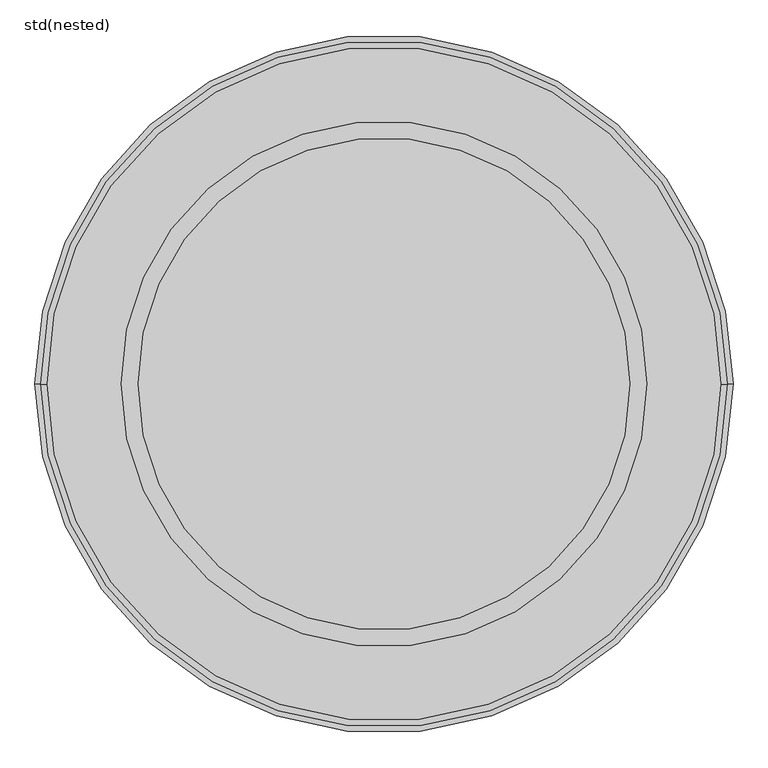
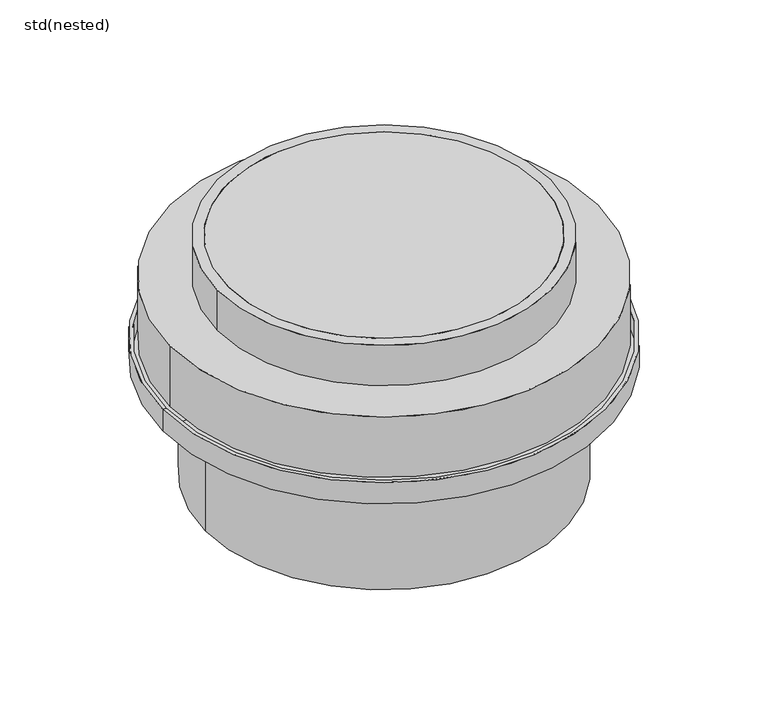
"""IFC4 building model written with IfcOpenShell, lengths in millimetres: unitary equipment geometry, ZZZ_do not use_ME_ST_WPB_top sections_plastic_ACO : std(nested)."""

import ifcopenshell
import ifcopenshell.guid

model = None  # the IFC model being written
_history = None  # IfcOwnerHistory: only IFC2X3 demands one
_inside = {}  # id of a spatial element -> (the spatial element, [elements in it])
_under = {}  # id of a project, library or spatial element -> (it, [spatial elements below it])
_declared = {}  # id of a project -> (the project, [libraries it declares])
_typed = {}  # id of a type object -> (the type object, [elements of that type])
_made_of = {}  # id of a material, layer set ... -> (it, [elements and type objects made of it])


def new_model(schema):
    """Start an empty IFC model of exactly this schema.

    Asked for "IFC4X3", IfcOpenShell would pick the latest addendum, in which some entities
    have other attributes; the version numbers below select the first issue.
    IFC2X3 requires an IfcOwnerHistory on every rooted entity: one is made here for all.
    """
    global model, _history
    if schema == "IFC4X3":
        model = ifcopenshell.file(schema_version=(4, 3, 0, 0))
    else:
        model = ifcopenshell.file(schema=schema)
    _inside.clear()
    _under.clear()
    _declared.clear()
    _typed.clear()
    _made_of.clear()
    _history = None
    if model.schema == "IFC2X3":
        org = make("IfcOrganization", Name="unknown")
        user = make(
            "IfcPersonAndOrganization",
            ThePerson=make("IfcPerson", FamilyName="unknown"),
            TheOrganization=org,
        )
        app = make(
            "IfcApplication",
            ApplicationDeveloper=org,
            Version="unknown",
            ApplicationFullName="unknown",
            ApplicationIdentifier="unknown",
        )
        _history = make(
            "IfcOwnerHistory",
            OwningUser=user,
            OwningApplication=app,
            ChangeAction="ADDED",
            CreationDate=0,
        )
    return model


def make(cls, **values):
    """One entity of the class cls with the attributes given. An attribute that is None is left unset."""
    return model.create_entity(
        cls, **{name: value for name, value in values.items() if value is not None}
    )


def rooted(cls, **values):
    """An entity with a GlobalId (a new one), such as an element, a storey or a relation."""
    return make(cls, GlobalId=ifcopenshell.guid.new(), OwnerHistory=_history, **values)


def si_unit(unit_type, name, prefix=None):
    """IfcSIUnit, for example si_unit("LENGTHUNIT", "METRE", prefix="MILLI")."""
    return make("IfcSIUnit", UnitType=unit_type, Prefix=prefix, Name=name)


def assignment(units):
    """IfcUnitAssignment: the units of a project."""
    return None if units is None else make("IfcUnitAssignment", Units=units)


def point(xyz):
    """IfcCartesianPoint."""
    return None if xyz is None else make("IfcCartesianPoint", Coordinates=xyz)


def direction(xyz):
    """IfcDirection."""
    return None if xyz is None else make("IfcDirection", DirectionRatios=xyz)


def frame(location, z_axis=None, x_axis=None):
    """IfcAxis2Placement3D, a coordinate frame: its origin and axes. An axis left out is left unset."""
    return make(
        "IfcAxis2Placement3D",
        Location=point(location),
        Axis=direction(z_axis),
        RefDirection=direction(x_axis),
    )


def frame_2d(location, x_axis=None):
    """IfcAxis2Placement2D, a coordinate frame in the plane: its origin and x axis."""
    return make(
        "IfcAxis2Placement2D", Location=point(location), RefDirection=direction(x_axis)
    )


def origin():
    """The frame at (0, 0, 0) with its axes left unset."""
    return frame((0.0, 0.0, 0.0))


def origin_2d():
    """The frame at (0, 0) in the plane with its x axis left unset."""
    return frame_2d((0.0, 0.0))


def place(relative_to, where):
    """IfcLocalPlacement: puts the frame where relative to a parent placement (None: the world)."""
    return make(
        "IfcLocalPlacement", PlacementRelTo=relative_to, RelativePlacement=where
    )


def context(
    kind, dimensions, precision=None, world=None, true_north=None, identifier=None
):
    """IfcGeometricRepresentationContext, for example the 3D "Model" context."""
    return make(
        "IfcGeometricRepresentationContext",
        ContextIdentifier=identifier,
        ContextType=kind,
        CoordinateSpaceDimension=dimensions,
        Precision=precision,
        WorldCoordinateSystem=world,
        TrueNorth=true_north,
    )


def project(units=None, contexts=None):
    """IfcProject with its units and contexts."""
    return rooted(
        "IfcProject",
        Name="project",
        RepresentationContexts=contexts,
        UnitsInContext=assignment(units),
    )


def spatial(cls, under=None, at=None, **own):
    """A site, building, storey or space (cls), placed at a placement, below another one or the project."""
    s = rooted(cls, ObjectPlacement=at, **own)
    if under is not None:
        _under.setdefault(under.id(), (under, []))[1].append(s)
    return s


def polyline(points):
    """IfcPolyline through the points."""
    return make("IfcPolyline", Points=[point(p) for p in points])


def circle_curve(where, radius):
    """IfcCircle in the frame where."""
    return make("IfcCircle", Position=where, Radius=radius)


def trimmed(basis, trim1, trim2, sense, master):
    """IfcTrimmedCurve: the piece of a basis curve between two trims."""
    return make(
        "IfcTrimmedCurve",
        BasisCurve=basis,
        Trim1=trim1,
        Trim2=trim2,
        SenseAgreement=sense,
        MasterRepresentation=master,
    )


def segment(curve, same_sense, transition):
    """IfcCompositeCurveSegment."""
    return make(
        "IfcCompositeCurveSegment",
        Transition=transition,
        SameSense=same_sense,
        ParentCurve=curve,
    )


def composite_curve(segments, self_intersect=None):
    """IfcCompositeCurve: segments joined end to end."""
    return make("IfcCompositeCurve", Segments=segments, SelfIntersect=self_intersect)


def outline(outer, holes=None, kind="AREA"):
    """IfcArbitraryClosedProfileDef: a profile drawn as a closed curve; with holes, ...WithVoids."""
    if holes is None:
        return make("IfcArbitraryClosedProfileDef", ProfileType=kind, OuterCurve=outer)
    return make(
        "IfcArbitraryProfileDefWithVoids",
        ProfileType=kind,
        OuterCurve=outer,
        InnerCurves=holes,
    )


def extrude(swept, where, along, depth):
    """IfcExtrudedAreaSolid: the profile swept, set in the frame where, extruded along a direction by depth."""
    return make(
        "IfcExtrudedAreaSolid",
        SweptArea=swept,
        Position=where,
        ExtrudedDirection=direction(along),
        Depth=depth,
    )


def shape(context_of_items, identifier, shape_type, items):
    """IfcShapeRepresentation: the items that make up one representation, for example the "Body"."""
    return make(
        "IfcShapeRepresentation",
        ContextOfItems=context_of_items,
        RepresentationIdentifier=identifier,
        RepresentationType=shape_type,
        Items=items,
    )


def source(mapping_origin, context_of_items, identifier, shape_type, items):
    """IfcRepresentationMap: a shape defined once, which mapped items show again and again."""
    return make(
        "IfcRepresentationMap",
        MappingOrigin=mapping_origin,
        MappedRepresentation=shape(context_of_items, identifier, shape_type, items),
    )


def transform(
    local_origin,
    x_axis=None,
    y_axis=None,
    z_axis=None,
    scale=None,
    scale2=None,
    scale3=None,
    uniform=True,
):
    """IfcCartesianTransformationOperator3D, or its non-uniform kind. x_axis, y_axis, z_axis: its Axis1, 2, 3."""
    if uniform:
        return make(
            "IfcCartesianTransformationOperator3D",
            Axis1=direction(x_axis),
            Axis2=direction(y_axis),
            LocalOrigin=point(local_origin),
            Scale=scale,
            Axis3=direction(z_axis),
        )
    return make(
        "IfcCartesianTransformationOperator3DnonUniform",
        Axis1=direction(x_axis),
        Axis2=direction(y_axis),
        LocalOrigin=point(local_origin),
        Scale=scale,
        Axis3=direction(z_axis),
        Scale2=scale2,
        Scale3=scale3,
    )


def mapped(mapping_source, mapping_target):
    """IfcMappedItem: shows the shape of a source again, moved by a transform."""
    return make(
        "IfcMappedItem", MappingSource=mapping_source, MappingTarget=mapping_target
    )


def made_of(thing, what):
    """Note that an element or type object is made of a material, layer set ...; save() writes the relation."""
    if what is not None:
        _made_of.setdefault(what.id(), (what, []))[1].append(thing)
    return thing


def element(
    cls,
    number,
    at=None,
    inside=None,
    cuts=None,
    type_object=None,
    material=None,
    context=None,
    identifier="Body",
    shape_type=None,
    held_by="IfcProductDefinitionShape",
    body=None,
    shapes=None,
    **own,
):
    """One element of the class cls, such as IfcWall. Its Tag is "e" and its number.

    at: its placement. inside: the storey or other place that contains it. cuts: it is an
    opening in that element (IfcRelVoidsElement). A single representation is given by context,
    identifier, shape_type and body (its items); several are given by shapes. held_by: the class
    of the entity that holds the representations. save() writes the other relations.
    """
    e = rooted(cls, Tag="e%d" % number, ObjectPlacement=at, **own)
    if body is not None:
        shapes = [shape(context, identifier, shape_type, body)]
    if shapes is not None:
        e.Representation = make(held_by, Representations=shapes)
    if inside is not None:
        _inside.setdefault(inside.id(), (inside, []))[1].append(e)
    if cuts is not None:
        rooted(
            "IfcRelVoidsElement", RelatingBuildingElement=cuts, RelatedOpeningElement=e
        )
    if type_object is not None:
        _typed.setdefault(type_object.id(), (type_object, []))[1].append(e)
    return made_of(e, material)


def aggregate(whole, parts):
    """IfcRelAggregates: a whole, such as a stair, and the parts it consists of."""
    return rooted("IfcRelAggregates", RelatingObject=whole, RelatedObjects=parts)


def save(model, path):
    """Write the relations noted so far, then the file.

    IfcRelAggregates (storeys below a building ...), IfcRelContainedInSpatialStructure (elements
    in a storey), IfcRelDefinesByType, IfcRelAssociatesMaterial and IfcRelDeclares: one each for
    every whole, place, type object, material and project.
    """
    for whole, parts in _under.values():
        aggregate(whole, parts)
    for where, things in _inside.values():
        rooted(
            "IfcRelContainedInSpatialStructure",
            RelatedElements=things,
            RelatingStructure=where,
        )
    for kind, things in _typed.values():
        rooted("IfcRelDefinesByType", RelatedObjects=things, RelatingType=kind)
    for what, things in _made_of.values():
        rooted("IfcRelAssociatesMaterial", RelatedObjects=things, RelatingMaterial=what)
    for by, libraries in _declared.values():
        rooted("IfcRelDeclares", RelatingContext=by, RelatedDefinitions=libraries)
    model.write(path)


def plane_surface(at):
    """IfcPlane: the flat surface through the origin of the frame at, square to its z axis."""
    return make("IfcPlane", Position=at)


def cylinder_surface(at, radius):
    """IfcCylindricalSurface: all points at the distance radius from the z axis of the frame at."""
    return make("IfcCylindricalSurface", Position=at, Radius=radius)


def revolved_surface(curve, axis_point, axis_direction):
    """IfcSurfaceOfRevolution: the curve turned about the line through axis_point along axis_direction."""
    return make(
        "IfcSurfaceOfRevolution",
        SweptCurve=make("IfcArbitraryOpenProfileDef", ProfileType="CURVE", Curve=curve),
        AxisPosition=make("IfcAxis1Placement", Location=point(axis_point), Axis=direction(axis_direction)),
    )


def advanced_brep(points, edges, surfaces, faces):
    """IfcAdvancedBrep: a solid bounded by faces that lie on surfaces and meet in shared edges.

    An edge is (start, end): straight between two places in points (the first is 0);
    or (start, end, curve); or (start, end, curve, False) where it runs against its curve.
    A face is (place in surfaces, loops), or (place, loops, False) where it looks against
    its surface's normal. A loop lists edges by number (the first is 1), with a minus sign
    where the edge is run from its end to its start. The first loop is the outer one.
    """
    corners = [point(p) for p in points]
    vertices = [make("IfcVertexPoint", VertexGeometry=c) for c in corners]
    made = []
    for start, end, *more in edges:
        made.append(
            make(
                "IfcEdgeCurve",
                EdgeStart=vertices[start],
                EdgeEnd=vertices[end],
                EdgeGeometry=more[0] if more else make("IfcPolyline", Points=[corners[start], corners[end]]),
                SameSense=more[1] if len(more) > 1 else True,
            )
        )
    hull = []
    for where, loops, *sense in faces:
        bounds = []
        for j, loop in enumerate(loops):
            ring = [make("IfcOrientedEdge", EdgeElement=made[abs(k) - 1], Orientation=k > 0) for k in loop]
            bounds.append(
                make(
                    "IfcFaceOuterBound" if j == 0 else "IfcFaceBound",
                    Bound=make("IfcEdgeLoop", EdgeList=ring),
                    Orientation=True,
                )
            )
        hull.append(make("IfcAdvancedFace", Bounds=bounds, FaceSurface=surfaces[where], SameSense=sense[0] if sense else True))
    return make("IfcAdvancedBrep", Outer=make("IfcClosedShell", CfsFaces=hull))


def std_nested_81b6cdd4(model_context):
    return source(origin(), model_context, "Body", "SolidModel", [
        advanced_brep(
        [(-510.0, 0.0, -250.0), (510.0, 0.0, -250.0), (518.0, 0.0, -250.0), (-518.0, 0.0, -250.0), (-510.0, 0.0, -295.0), (510.0, 0.0, -295.0), (-410.0, 0.0, -295.0), (410.0, 0.0, -295.0), (-410.0, 0.0, -585.0), (410.0, 0.0, -585.0), (-418.0, 0.0, -585.0), (418.0, 0.0, -585.0), (-418.0, 0.0, -303.0), (418.0, 0.0, -303.0), (-518.0, 0.0, -303.0), (518.0, 0.0, -303.0)],
        [
            (0, 1, circle_curve(frame((0.0, 0.0, -250.0), z_axis=(0.0, 0.0, -1.0), x_axis=(1.0, 0.0, 0.0)), 510.0)),
            (1, 2),
            (2, 3, circle_curve(frame((0.0, 0.0, -250.0), z_axis=(0.0, 0.0, 1.0), x_axis=(1.0, 0.0, 0.0)), 518.0)),
            (3, 0),
            (1, 0, circle_curve(frame((0.0, 0.0, -250.0), z_axis=(0.0, 0.0, -1.0), x_axis=(1.0, 0.0, 0.0)), 510.0)),
            (3, 2, circle_curve(frame((0.0, 0.0, -250.0), z_axis=(0.0, 0.0, 1.0), x_axis=(1.0, 0.0, 0.0)), 518.0)),
            (4, 5, circle_curve(frame((0.0, 0.0, -295.0), z_axis=(0.0, 0.0, -1.0), x_axis=(1.0, 0.0, 0.0)), 510.0)),
            (5, 1),
            (0, 4),
            (5, 4, circle_curve(frame((0.0, 0.0, -295.0), z_axis=(0.0, 0.0, -1.0), x_axis=(1.0, 0.0, 0.0)), 510.0)),
            (6, 7, circle_curve(frame((0.0, 0.0, -295.0), z_axis=(0.0, 0.0, -1.0), x_axis=(1.0, 0.0, 0.0)), 410.0)),
            (7, 5),
            (4, 6),
            (7, 6, circle_curve(frame((0.0, 0.0, -295.0), z_axis=(0.0, 0.0, -1.0), x_axis=(1.0, 0.0, 0.0)), 410.0)),
            (8, 9, circle_curve(frame((0.0, 0.0, -585.0), z_axis=(0.0, 0.0, -1.0), x_axis=(1.0, 0.0, 0.0)), 410.0)),
            (9, 7),
            (6, 8),
            (9, 8, circle_curve(frame((0.0, 0.0, -585.0), z_axis=(0.0, 0.0, -1.0), x_axis=(1.0, 0.0, 0.0)), 410.0)),
            (10, 11, circle_curve(frame((0.0, 0.0, -585.0), z_axis=(0.0, 0.0, -1.0), x_axis=(1.0, 0.0, 0.0)), 418.0)),
            (11, 9),
            (8, 10),
            (11, 10, circle_curve(frame((0.0, 0.0, -585.0), z_axis=(0.0, 0.0, -1.0), x_axis=(1.0, 0.0, 0.0)), 418.0)),
            (12, 13, circle_curve(frame((0.0, 0.0, -303.0), z_axis=(0.0, 0.0, -1.0), x_axis=(1.0, 0.0, 0.0)), 418.0)),
            (13, 11),
            (10, 12),
            (13, 12, circle_curve(frame((0.0, 0.0, -303.0), z_axis=(0.0, 0.0, -1.0), x_axis=(1.0, 0.0, 0.0)), 418.0)),
            (14, 15, circle_curve(frame((0.0, 0.0, -303.0), z_axis=(0.0, 0.0, -1.0), x_axis=(1.0, 0.0, 0.0)), 518.0)),
            (15, 13),
            (12, 14),
            (15, 14, circle_curve(frame((0.0, 0.0, -303.0), z_axis=(0.0, 0.0, -1.0), x_axis=(1.0, 0.0, 0.0)), 518.0)),
            (2, 15),
            (14, 3),
        ],
        [
            plane_surface(frame((0.0, 0.0, -250.0), z_axis=(0.0, 0.0, 1.0), x_axis=(1.0, 0.0, 0.0))),
            revolved_surface(polyline([(510.0, 0.0, -250.0), (510.0, 0.0, -295.0)]), (0.0, 0.0, 240.0), (0.0, 0.0, 1.0)),
            plane_surface(frame((0.0, 0.0, -295.0), z_axis=(0.0, 0.0, 1.0), x_axis=(1.0, 0.0, 0.0))),
            revolved_surface(polyline([(410.0, 0.0, -295.0), (410.0, 0.0, -585.0)]), (0.0, 0.0, 240.0), (0.0, 0.0, 1.0)),
            plane_surface(frame((0.0, 0.0, -585.0), z_axis=(0.0, 0.0, -1.0), x_axis=(1.0, 0.0, 0.0))),
            cylinder_surface(frame((0.0, 0.0, 240.0), z_axis=(0.0, 0.0, 1.0), x_axis=(1.0, 0.0, 0.0)), 418.0),
            plane_surface(frame((0.0, 0.0, -303.0), z_axis=(0.0, 0.0, -1.0), x_axis=(1.0, 0.0, 0.0))),
            cylinder_surface(frame((0.0, 0.0, 240.0), z_axis=(0.0, 0.0, 1.0), x_axis=(1.0, 0.0, 0.0)), 518.0),
        ],
        [
            (0, [[1, 2, 3, 4]]),
            (0, [[5, -4, 6, -2]]),
            (1, [[7, 8, -1, 9]]),
            (1, [[10, -9, -5, -8]]),
            (2, [[11, 12, -7, 13]]),
            (2, [[14, -13, -10, -12]]),
            (3, [[15, 16, -11, 17]]),
            (3, [[18, -17, -14, -16]]),
            (4, [[19, 20, -15, 21]]),
            (4, [[22, -21, -18, -20]]),
            (5, [[23, 24, -19, 25]]),
            (5, [[26, -25, -22, -24]]),
            (6, [[27, 28, -23, 29]]),
            (6, [[30, -29, -26, -28]]),
            (7, [[-3, 31, -27, 32]]),
            (7, [[-6, -32, -30, -31]]),
        ],
    ),
        extrude(outline(composite_curve([segment(trimmed(circle_curve(origin_2d(), 500.0), [point((-500.0, 0.0))], [point((500.0, 0.0))], False, "CARTESIAN"), True, "CONTINUOUS"), segment(trimmed(circle_curve(origin_2d(), 500.0), [point((500.0, 0.0))], [point((-500.0, 0.0))], False, "CARTESIAN"), True, "CONTINUOUS")], self_intersect=False)), frame((0.0, 0.0, -250.0), z_axis=(0.0, 0.0, 1.0), x_axis=(1.0, 0.0, 0.0)), (0.0, 0.0, 1.0), 150.0),
        extrude(outline(composite_curve([segment(trimmed(circle_curve(origin_2d(), 365.0), [point((365.0, 0.0))], [point((-365.0, 0.0))], False, "CARTESIAN"), True, "CONTINUOUS"), segment(trimmed(circle_curve(origin_2d(), 365.0), [point((-365.0, 0.0))], [point((365.0, 0.0))], False, "CARTESIAN"), True, "CONTINUOUS")], self_intersect=False)), frame((0.0, 0.0, -100.0), z_axis=(0.0, 0.0, 1.0), x_axis=(1.0, 0.0, 0.0)), (0.0, 0.0, 1.0), 100.0),
        extrude(outline(composite_curve([segment(trimmed(circle_curve(origin_2d(), 390.0), [point((-390.0, 0.0))], [point((390.0, 0.0))], False, "CARTESIAN"), True, "CONTINUOUS"), segment(trimmed(circle_curve(origin_2d(), 390.0), [point((390.0, 0.0))], [point((-390.0, 0.0))], False, "CARTESIAN"), True, "CONTINUOUS")], self_intersect=False), holes=[composite_curve([segment(trimmed(circle_curve(origin_2d(), 365.0), [point((-365.0, 0.0))], [point((365.0, 0.0))], True, "CARTESIAN"), True, "CONTINUOUS"), segment(trimmed(circle_curve(origin_2d(), 365.0), [point((365.0, 0.0))], [point((-365.0, 0.0))], True, "CARTESIAN"), True, "CONTINUOUS")], self_intersect=False)]), frame((0.0, 0.0, -100.0), z_axis=(0.0, 0.0, 1.0), x_axis=(1.0, 0.0, 0.0)), (0.0, 0.0, 1.0), 100.0),
    ])


if __name__ == "__main__":
    model = new_model("IFC4")
    model_context = context("Model", 3, world=origin())
    ifc_project = project(units=[si_unit("LENGTHUNIT", "METRE", prefix="MILLI")], contexts=[model_context])
    site = spatial("IfcSite", under=ifc_project)
    building = spatial("IfcBuilding", under=site)
    placement = place(None, origin())
    std_nested_shape = std_nested_81b6cdd4(model_context)
    element("IfcUnitaryEquipment", 1, ObjectType="ZZZ_do not use_ME_ST_WPB_top sections_plastic_ACO : std(nested)", at=placement, inside=building, context=model_context, shape_type="MappedRepresentation", body=[
        mapped(std_nested_shape, transform((0.0, 0.0, 0.0), x_axis=(1.0, 0.0, 0.0), y_axis=(0.0, 1.0, 0.0), z_axis=(0.0, 0.0, 1.0))),
    ])
    save(model, "model.ifc")
